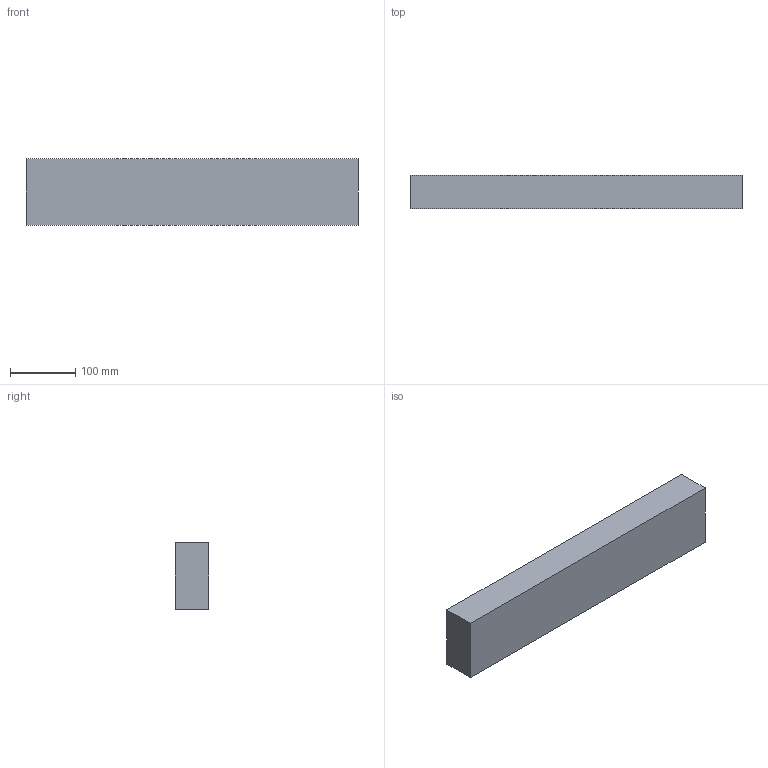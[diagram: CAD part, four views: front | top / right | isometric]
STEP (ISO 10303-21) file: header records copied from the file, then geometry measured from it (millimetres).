
FILE_DESCRIPTION(('FreeCAD Model'),'2;1');
FILE_NAME('/home/jwright/Documents/Mach_30/Shepard_v1.0_Mechanical/STEP_Files/Shepard_v1.0_Test_Section_Beam_TSBe01.step','2012-10-16T23:18:01', ('FreeCAD'),('FreeCAD'),'Open CASCADE STEP processor 6.5','FreeCAD', 'Unknown');
FILE_SCHEMA(('AUTOMOTIVE_DESIGN_CC2 { 1 2 10303 214 -1 1 5 4 }'));
Length unit declared in the file: millimetre
Products named in the file (1): Test_Section_Beam
Bounding box: 508 x 50.8 x 101.6 mm (x, y, z)
Volume: 2621930.2 mm3; surface area: 165161 mm2
Topology: 1 solids, 1 shells, 6 faces, 12 edges, 8 vertices
Faces by surface type: plane 6
Entity records: 333 total; most frequent: CARTESIAN_POINT 51, DIRECTION 50, LINE 36, VECTOR 36, ORIENTED_EDGE 24, PCURVE 24, DEFINITIONAL_REPRESENTATION 24, EDGE_CURVE 12
